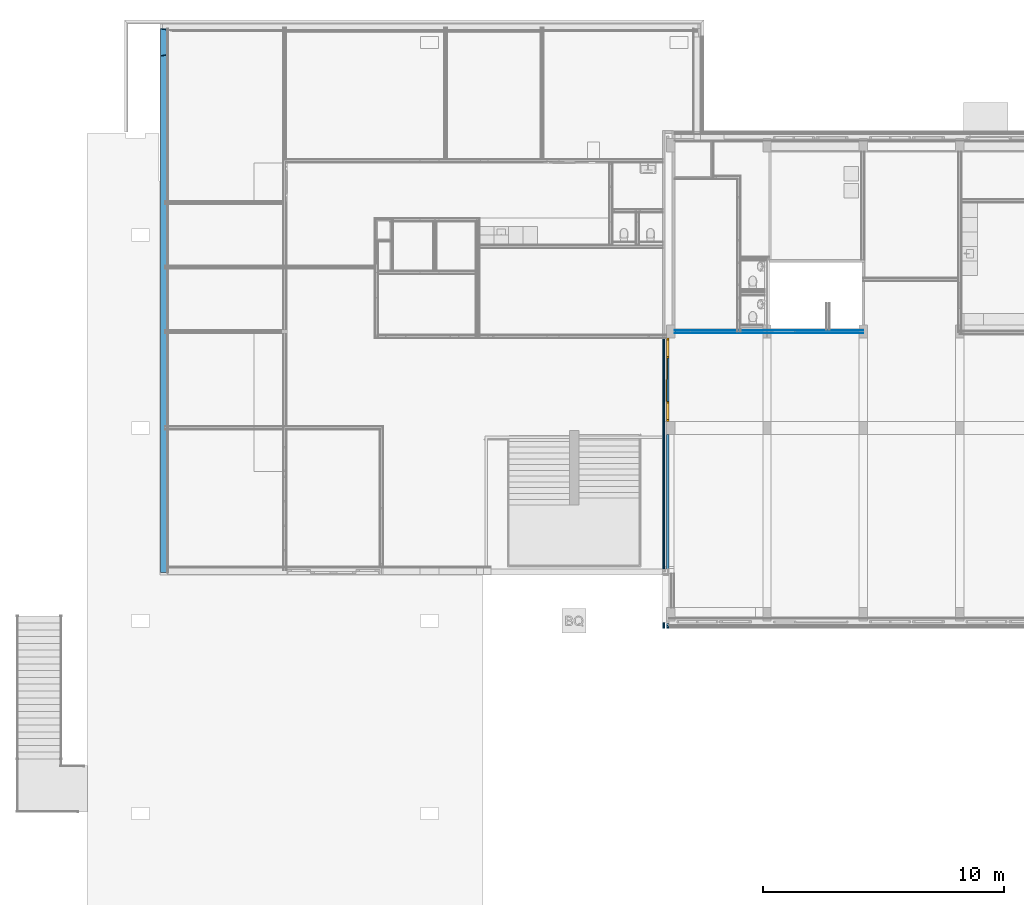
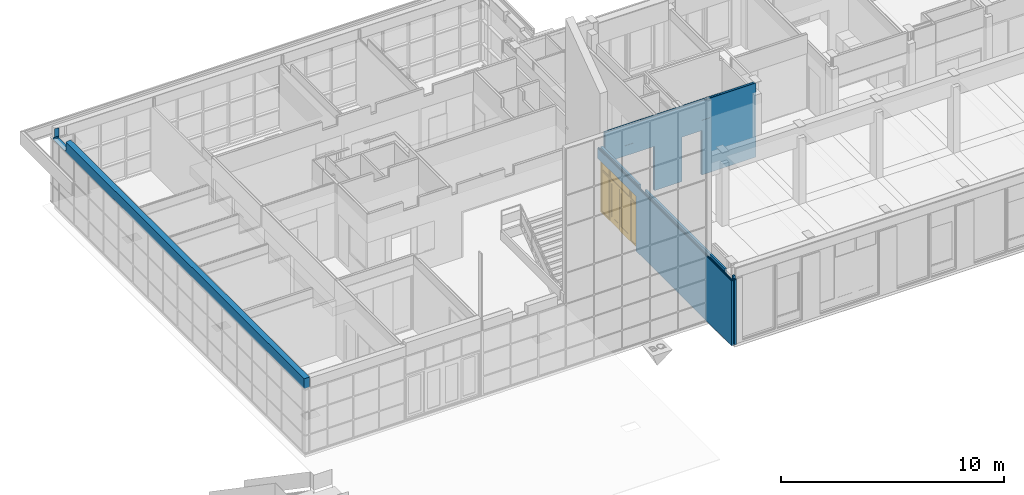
# One storey, part 35 of 109: 7 building element parts, 1 door, 3 openings, 3 elements without a shape of their own.
"""IFC2X3 building model written with IfcOpenShell, lengths in millimetres."""

from ifc_helpers import new_model, entity, si_unit, converted_unit, derived_unit, money_unit, direction, frame, origin_with_axes, place, context, subcontext, project, spatial, open_shell, faceted_brep, surface_model, material, type_object, element, fill, aggregate, save


model = new_model("IFC2X3")

# Units and contexts
model_context = context("Model", 3, precision=0.01, world=origin_with_axes(), true_north=direction((0.0, 1.0)))
body_context = subcontext(model_context, "Body", "Model", "MODEL_VIEW")
ifc_project = project(units=[si_unit("LENGTHUNIT", "METRE", prefix="MILLI"), si_unit("AREAUNIT", "SQUARE_METRE"), si_unit("VOLUMEUNIT", "CUBIC_METRE"), converted_unit("PLANEANGLEUNIT", "DEGREE", entity("IfcPlaneAngleMeasure", 0.0174532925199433), si_unit("PLANEANGLEUNIT", "RADIAN"), dimensions=[0, 0, 0, 0, 0, 0, 0]), money_unit("EUR"), converted_unit("TIMEUNIT", "Year", entity("IfcTimeMeasure", 31557600.0), si_unit("TIMEUNIT", "SECOND"), dimensions=[0, 0, 1, 0, 0, 0, 0]), si_unit("MASSUNIT", "GRAM", prefix="KILO"), si_unit("THERMODYNAMICTEMPERATUREUNIT", "DEGREE_CELSIUS"), si_unit("LUMINOUSINTENSITYUNIT", "LUMEN"), si_unit("ENERGYUNIT", "JOULE", prefix="MEGA"), derived_unit("THERMALCONDUCTANCEUNIT", [(si_unit("POWERUNIT", "WATT"), 1), (si_unit("LENGTHUNIT", "METRE"), -1), (si_unit("THERMODYNAMICTEMPERATUREUNIT", "KELVIN"), -1)]), derived_unit("SPECIFICHEATCAPACITYUNIT", [(si_unit("ENERGYUNIT", "JOULE"), 1), (si_unit("MASSUNIT", "GRAM", prefix="KILO"), -1), (si_unit("THERMODYNAMICTEMPERATUREUNIT", "KELVIN"), -1)]), derived_unit("MASSDENSITYUNIT", [(si_unit("MASSUNIT", "GRAM", prefix="KILO"), 1), (si_unit("VOLUMEUNIT", "CUBIC_METRE"), -1)])], contexts=[model_context])

# Site, building, storey
site_placement = place(None, origin_with_axes())
site = spatial("IfcSite", under=ifc_project, at=site_placement, Name="<site naam>", CompositionType="ELEMENT")
building_placement = place(site_placement, origin_with_axes())
building = spatial("IfcBuilding", under=site, at=building_placement, Name="<Naam gebouw>", CompositionType="ELEMENT")
storey_placement = place(building_placement, origin_with_axes())
storey = spatial("IfcBuildingStorey", under=building, at=storey_placement, Name="00 Begane grond", CompositionType="ELEMENT", Elevation=0.0)

# Door
door_style = type_object("IfcDoorStyle", Name="D2 bl zl2 27", ConstructionType="NOTDEFINED", OperationType="USERDEFINED", ParameterTakesPrecedence=False, Sizeable=False)
wall_1_placement = place(storey_placement, frame((11665.00000000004, 11725.00000000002, 0.0), z_axis=(0.0, 0.0, 1.0), x_axis=(0.0, -1.0, 0.0)))
opening_1_placement = place(wall_1_placement, frame((1725.0, 0.0, 0.0), z_axis=(0.0, 0.0, 1.0), x_axis=(1.0, 0.0, 0.0)))
door_placement = place(opening_1_placement, frame((1725.0, 0.0, 0.0), z_axis=(0.0, 0.0, 1.0), x_axis=(-1.0, 0.0, 0.0)))
door = element("IfcDoor", 1, at=door_placement, inside=storey, type_object=door_style, Name="21_BI-D-02_305", ObjectType="DOOR", OverallHeight=3000.0, OverallWidth=3450.0, context=body_context, shape_type="SurfaceModel", body=[
    faceted_brep([(0.0, -160.0000000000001, 0.0), (67.00000000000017, -160.0000000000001, 0.0), (67.00000000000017, -273.9999999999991, 0.0), (0.0, -273.9999999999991, 0.0), (0.0, -160.0000000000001, 2933.0), (67.00000000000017, -160.0000000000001, 2933.0), (67.00000000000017, -160.0000000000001, 2367.0), (67.00000000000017, -160.0000000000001, 2300.0), (67.00000000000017, -160.0000000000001, 66.99999999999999), (67.00000000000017, -273.9999999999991, 66.99999999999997), (67.00000000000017, -273.9999999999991, 2300.0), (67.00000000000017, -273.9999999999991, 2367.0), (67.00000000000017, -273.9999999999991, 2933.0), (0.0, -273.9999999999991, 2933.0)], [[[0, 1, 2, 3]], [[0, 4, 5, 6, 7, 8, 1]], [[1, 8, 9, 2]], [[3, 2, 9, 10, 11, 12, 13]], [[4, 0, 3, 13]], [[5, 4, 13, 12]], [[6, 5, 12, 11]], [[7, 6, 11, 10]], [[8, 7, 10, 9]]]),
    faceted_brep([(757.9999999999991, -160.0000000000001, 2933.0), (757.9999999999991, -160.0000000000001, 2367.0), (757.9999999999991, -273.9999999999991, 2367.0), (757.9999999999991, -274.0000000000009, 2933.0), (824.9999999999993, -160.0000000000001, 2933.0), (824.9999999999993, -160.0000000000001, 2367.0), (824.9999999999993, -160.0000000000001, 2300.0), (824.9999999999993, -160.0000000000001, 0.0), (757.9999999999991, -160.0000000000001, 0.0), (757.9999999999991, -160.0000000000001, 66.99999999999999), (757.9999999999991, -160.0000000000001, 2300.0), (757.9999999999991, -273.9999999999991, 2300.0), (757.9999999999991, -273.9999999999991, 66.99999999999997), (757.9999999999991, -273.9999999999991, 0.0), (824.9999999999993, -273.9999999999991, 0.0), (824.9999999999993, -273.9999999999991, 2300.0), (824.9999999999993, -273.9999999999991, 2367.0), (824.9999999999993, -274.0000000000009, 2933.0)], [[[0, 1, 2, 3]], [[0, 4, 5, 6, 7, 8, 9, 10, 1]], [[1, 10, 11, 2]], [[3, 2, 11, 12, 13, 14, 15, 16, 17]], [[4, 0, 3, 17]], [[5, 4, 17, 16]], [[6, 5, 16, 15]], [[7, 6, 15, 14]], [[8, 7, 14, 13]], [[9, 8, 13, 12]], [[10, 9, 12, 11]]]),
    faceted_brep([(67.00000000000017, -160.0000000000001, 66.99999999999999), (67.00000000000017, -160.0000000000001, 0.0), (67.00000000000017, -273.9999999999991, 0.0), (67.00000000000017, -273.9999999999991, 66.99999999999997), (757.9999999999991, -160.0000000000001, 66.99999999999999), (757.9999999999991, -160.0000000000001, 0.0), (757.9999999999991, -273.9999999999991, 0.0), (757.9999999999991, -273.9999999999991, 66.99999999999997)], [[[0, 1, 2, 3]], [[0, 4, 5, 1]], [[1, 5, 6, 2]], [[3, 2, 6, 7]], [[4, 0, 3, 7]], [[5, 4, 7, 6]]]),
    faceted_brep([(3449.999999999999, -160.0000000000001, 0.0), (3449.999999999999, -160.0000000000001, 2933.0), (3449.999999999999, -274.0000000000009, 2933.0), (3449.999999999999, -274.0000000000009, 0.0), (3382.999999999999, -160.0000000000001, 0.0), (3382.999999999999, -160.0000000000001, 66.99999999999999), (3382.999999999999, -160.0000000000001, 2300.0), (3382.999999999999, -160.0000000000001, 2367.0), (3382.999999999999, -160.0000000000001, 2933.0), (3382.999999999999, -274.0000000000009, 2933.0), (3382.999999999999, -274.0000000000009, 2367.0), (3382.999999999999, -274.0000000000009, 2300.0), (3382.999999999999, -274.0000000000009, 66.99999999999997), (3382.999999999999, -274.0000000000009, 0.0)], [[[0, 1, 2, 3]], [[0, 4, 5, 6, 7, 8, 1]], [[1, 8, 9, 2]], [[3, 2, 9, 10, 11, 12, 13]], [[4, 0, 3, 13]], [[5, 4, 13, 12]], [[6, 5, 12, 11]], [[7, 6, 11, 10]], [[8, 7, 10, 9]]]),
    faceted_brep([(2692.0, -160.0000000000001, 2933.0), (2625.0, -160.0000000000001, 2933.0), (2625.0, -274.0000000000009, 2933.0), (2692.0, -274.0000000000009, 2933.0), (2692.0, -160.0000000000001, 2367.0), (2692.0, -160.0000000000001, 2300.0), (2692.0, -160.0000000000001, 66.99999999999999), (2692.0, -160.0000000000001, 0.0), (2625.0, -160.0000000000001, 0.0), (2625.0, -160.0000000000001, 2300.0), (2625.0, -160.0000000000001, 2367.0), (2625.0, -274.0000000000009, 2367.0), (2625.0, -274.0000000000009, 2300.0), (2625.0, -274.0000000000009, 0.0), (2692.0, -274.0000000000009, 0.0), (2692.0, -274.0000000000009, 66.99999999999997), (2692.0, -274.0000000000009, 2300.0), (2692.0, -274.0000000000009, 2367.0)], [[[0, 1, 2, 3]], [[0, 4, 5, 6, 7, 8, 9, 10, 1]], [[1, 10, 11, 2]], [[3, 2, 11, 12, 13, 14, 15, 16, 17]], [[4, 0, 3, 17]], [[5, 4, 17, 16]], [[6, 5, 16, 15]], [[7, 6, 15, 14]], [[8, 7, 14, 13]], [[9, 8, 13, 12]], [[10, 9, 12, 11]]]),
    faceted_brep([(2692.0, -160.0000000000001, 66.99999999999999), (2692.0, -160.0000000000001, 0.0), (2692.0, -274.0000000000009, 0.0), (2692.0, -274.0000000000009, 66.99999999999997), (3382.999999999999, -160.0000000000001, 66.99999999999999), (3382.999999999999, -160.0000000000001, 0.0), (3382.999999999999, -274.0000000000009, 0.0), (3382.999999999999, -274.0000000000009, 66.99999999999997)], [[[0, 1, 2, 3]], [[0, 4, 5, 1]], [[1, 5, 6, 2]], [[3, 2, 6, 7]], [[4, 0, 3, 7]], [[5, 4, 7, 6]]]),
    faceted_brep([(0.0, -160.0000000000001, 3000.0), (0.0, -160.0000000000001, 2933.0), (0.0, -273.9999999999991, 2933.0), (0.0, -273.9999999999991, 3000.0), (3449.999999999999, -160.0000000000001, 3000.0), (3449.999999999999, -160.0000000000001, 2933.0), (3382.999999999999, -160.0000000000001, 2933.0), (2692.0, -160.0000000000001, 2933.0), (2625.0, -160.0000000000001, 2933.0), (824.9999999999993, -160.0000000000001, 2933.0), (757.9999999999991, -160.0000000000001, 2933.0), (67.00000000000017, -160.0000000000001, 2933.0), (67.00000000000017, -273.9999999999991, 2933.0), (757.9999999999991, -274.0000000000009, 2933.0), (824.9999999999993, -274.0000000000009, 2933.0), (2625.0, -274.0000000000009, 2933.0), (2692.0, -274.0000000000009, 2933.0), (3382.999999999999, -274.0000000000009, 2933.0), (3449.999999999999, -274.0000000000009, 2933.0), (3449.999999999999, -274.0000000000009, 3000.0)], [[[0, 1, 2, 3]], [[0, 4, 5, 6, 7, 8, 9, 10, 11, 1]], [[1, 11, 12, 2]], [[3, 2, 12, 13, 14, 15, 16, 17, 18, 19]], [[4, 0, 3, 19]], [[5, 4, 19, 18]], [[6, 5, 18, 17]], [[7, 6, 17, 16]], [[8, 7, 16, 15]], [[9, 8, 15, 14]], [[10, 9, 14, 13]], [[11, 10, 13, 12]]]),
    faceted_brep([(67.00000000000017, -160.0000000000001, 2300.0), (757.9999999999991, -160.0000000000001, 2300.0), (757.9999999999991, -273.9999999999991, 2300.0), (67.00000000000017, -273.9999999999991, 2300.0), (67.00000000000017, -160.0000000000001, 2367.0), (757.9999999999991, -160.0000000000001, 2367.0), (757.9999999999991, -273.9999999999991, 2367.0), (67.00000000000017, -273.9999999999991, 2367.0)], [[[0, 1, 2, 3]], [[0, 4, 5, 1]], [[1, 5, 6, 2]], [[3, 2, 6, 7]], [[4, 0, 3, 7]], [[5, 4, 7, 6]]]),
    faceted_brep([(3382.999999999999, -160.0000000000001, 2367.0), (2692.0, -160.0000000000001, 2367.0), (2692.0, -274.0000000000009, 2367.0), (3382.999999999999, -274.0000000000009, 2367.0), (3382.999999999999, -160.0000000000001, 2300.0), (2692.0, -160.0000000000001, 2300.0), (2692.0, -274.0000000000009, 2300.0), (3382.999999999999, -274.0000000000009, 2300.0)], [[[0, 1, 2, 3]], [[0, 4, 5, 1]], [[1, 5, 6, 2]], [[3, 2, 6, 7]], [[4, 0, 3, 7]], [[5, 4, 7, 6]]]),
    faceted_brep([(824.9999999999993, -160.0000000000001, 2367.0), (824.9999999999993, -160.0000000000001, 2300.0), (824.9999999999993, -273.9999999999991, 2300.0), (824.9999999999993, -273.9999999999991, 2367.0), (2625.0, -160.0000000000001, 2367.0), (2625.0, -160.0000000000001, 2300.0), (2625.0, -274.0000000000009, 2300.0), (2625.0, -274.0000000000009, 2367.0)], [[[0, 1, 2, 3]], [[0, 4, 5, 1]], [[1, 5, 6, 2]], [[3, 2, 6, 7]], [[4, 0, 3, 7]], [[5, 4, 7, 6]]]),
    faceted_brep([(2625.0, -169.9999999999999, 300.0), (2625.0, -210.0000000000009, 300.0), (2475.0, -210.0000000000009, 300.0), (2475.0, -169.9999999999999, 300.0), (2625.0, -169.9999999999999, 2150.0), (2625.0, -210.0000000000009, 2150.0), (2475.0, -210.0000000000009, 2150.0), (2475.0, -169.9999999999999, 2150.0)], [[[0, 1, 2, 3]], [[4, 5, 1, 0]], [[1, 5, 6, 2]], [[3, 2, 6, 7]], [[0, 3, 7, 4]], [[7, 6, 5, 4]]]),
    faceted_brep([(1725.0, -169.9999999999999, 300.0), (1725.0, -210.0000000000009, 300.0), (1725.0, -210.0000000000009, 2150.0), (1725.0, -169.9999999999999, 2150.0), (1875.0, -169.9999999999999, 300.0), (1875.0, -210.0000000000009, 300.0), (1875.0, -210.0000000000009, 2150.0), (1875.0, -169.9999999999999, 2150.0)], [[[0, 1, 2, 3]], [[4, 5, 1, 0]], [[1, 5, 6, 2]], [[3, 2, 6, 7]], [[0, 3, 7, 4]], [[7, 6, 5, 4]]]),
    faceted_brep([(2625.0, -169.9999999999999, 0.0), (2625.0, -210.0000000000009, 0.0), (1725.0, -210.0000000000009, 0.0), (1725.0, -169.9999999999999, 0.0), (2625.0, -169.9999999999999, 300.0), (2625.0, -210.0000000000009, 300.0), (2475.0, -210.0000000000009, 300.0), (1875.0, -210.0000000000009, 300.0), (1725.0, -210.0000000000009, 300.0), (1725.0, -169.9999999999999, 300.0), (1875.0, -169.9999999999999, 300.0), (2475.0, -169.9999999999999, 300.0)], [[[0, 1, 2, 3]], [[4, 5, 1, 0]], [[1, 5, 6, 7, 8, 2]], [[3, 2, 8, 9]], [[0, 3, 9, 10, 11, 4]], [[11, 6, 5, 4]], [[10, 7, 6, 11]], [[9, 8, 7, 10]]]),
    faceted_brep([(2625.0, -169.9999999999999, 2300.0), (2625.0, -210.0000000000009, 2300.0), (2625.0, -210.0000000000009, 2150.0), (2625.0, -169.9999999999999, 2150.0), (1725.0, -169.9999999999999, 2300.0), (1725.0, -210.0000000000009, 2300.0), (1725.0, -210.0000000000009, 2150.0), (1875.0, -210.0000000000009, 2150.0), (2475.0, -210.0000000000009, 2150.0), (2475.0, -169.9999999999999, 2150.0), (1875.0, -169.9999999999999, 2150.0), (1725.0, -169.9999999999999, 2150.0)], [[[0, 1, 2, 3]], [[4, 5, 1, 0]], [[1, 5, 6, 7, 8, 2]], [[3, 2, 8, 9]], [[0, 3, 9, 10, 11, 4]], [[11, 6, 5, 4]], [[10, 7, 6, 11]], [[9, 8, 7, 10]]]),
    surface_model("IfcShellBasedSurfaceModel", [(2475.0, -184.0000000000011, 300.0), (1875.0, -184.0000000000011, 300.0), (1875.0, -184.0000000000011, 2150.0), (2475.0, -184.0000000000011, 2150.0)], [open_shell([[[0, 1, 2, 3]]])]),
    surface_model("IfcShellBasedSurfaceModel", [(2475.0, -195.9999999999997, 300.0), (2475.0, -195.9999999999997, 2150.0), (1875.0, -195.9999999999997, 2150.0), (1875.0, -195.9999999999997, 300.0)], [open_shell([[[0, 1, 2, 3]]])]),
    faceted_brep([(824.9999999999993, -189.9999999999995, 300.0), (824.9999999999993, -150.0000000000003, 300.0), (974.9999999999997, -150.0000000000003, 300.0), (974.9999999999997, -189.9999999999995, 300.0), (824.9999999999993, -189.9999999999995, 2150.0), (824.9999999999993, -150.0000000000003, 2150.0), (974.9999999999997, -150.0000000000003, 2150.0), (974.9999999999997, -189.9999999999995, 2150.0)], [[[0, 1, 2, 3]], [[4, 5, 1, 0]], [[1, 5, 6, 2]], [[3, 2, 6, 7]], [[0, 3, 7, 4]], [[7, 6, 5, 4]]]),
    faceted_brep([(1725.0, -189.9999999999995, 300.0), (1725.0, -150.0000000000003, 300.0), (1725.0, -150.0000000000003, 2150.0), (1725.0, -189.9999999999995, 2150.0), (1574.999999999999, -189.9999999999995, 300.0), (1574.999999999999, -150.0000000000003, 300.0), (1574.999999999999, -150.0000000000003, 2150.0), (1574.999999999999, -189.9999999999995, 2150.0)], [[[0, 1, 2, 3]], [[4, 5, 1, 0]], [[1, 5, 6, 2]], [[3, 2, 6, 7]], [[0, 3, 7, 4]], [[7, 6, 5, 4]]]),
    faceted_brep([(824.9999999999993, -189.9999999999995, 0.0), (824.9999999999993, -150.0000000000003, 0.0), (1725.0, -150.0000000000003, 0.0), (1725.0, -189.9999999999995, 0.0), (824.9999999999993, -189.9999999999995, 300.0), (824.9999999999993, -150.0000000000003, 300.0), (974.9999999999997, -150.0000000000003, 300.0), (1574.999999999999, -150.0000000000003, 300.0), (1725.0, -150.0000000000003, 300.0), (1725.0, -189.9999999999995, 300.0), (1574.999999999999, -189.9999999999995, 300.0), (974.9999999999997, -189.9999999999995, 300.0)], [[[0, 1, 2, 3]], [[4, 5, 1, 0]], [[1, 5, 6, 7, 8, 2]], [[3, 2, 8, 9]], [[0, 3, 9, 10, 11, 4]], [[11, 6, 5, 4]], [[10, 7, 6, 11]], [[9, 8, 7, 10]]]),
    faceted_brep([(824.9999999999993, -189.9999999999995, 2300.0), (824.9999999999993, -150.0000000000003, 2300.0), (824.9999999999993, -150.0000000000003, 2150.0), (824.9999999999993, -189.9999999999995, 2150.0), (1725.0, -189.9999999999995, 2300.0), (1725.0, -150.0000000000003, 2300.0), (1725.0, -150.0000000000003, 2150.0), (1574.999999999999, -150.0000000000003, 2150.0), (974.9999999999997, -150.0000000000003, 2150.0), (974.9999999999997, -189.9999999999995, 2150.0), (1574.999999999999, -189.9999999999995, 2150.0), (1725.0, -189.9999999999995, 2150.0)], [[[0, 1, 2, 3]], [[4, 5, 1, 0]], [[1, 5, 6, 7, 8, 2]], [[3, 2, 8, 9]], [[0, 3, 9, 10, 11, 4]], [[11, 6, 5, 4]], [[10, 7, 6, 11]], [[9, 8, 7, 10]]]),
    surface_model("IfcShellBasedSurfaceModel", [(974.9999999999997, -176.0000000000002, 300.0), (1574.999999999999, -176.0000000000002, 300.0), (1574.999999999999, -176.0000000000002, 2150.0), (974.9999999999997, -176.0000000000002, 2150.0)], [open_shell([[[0, 1, 2, 3]]])]),
    surface_model("IfcShellBasedSurfaceModel", [(974.9999999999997, -163.9999999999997, 300.0), (974.9999999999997, -163.9999999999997, 2150.0), (1574.999999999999, -163.9999999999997, 2150.0), (1574.999999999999, -163.9999999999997, 300.0)], [open_shell([[[0, 1, 2, 3]]])]),
    surface_model("IfcShellBasedSurfaceModel", [(67.00000000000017, -220.0000000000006, 2367.0), (757.9999999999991, -220.0000000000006, 2367.0), (757.9999999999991, -220.0000000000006, 2933.0), (67.00000000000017, -220.0000000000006, 2933.0)], [open_shell([[[0, 1, 2, 3]]])]),
    surface_model("IfcShellBasedSurfaceModel", [(67.00000000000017, -208.0000000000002, 2367.0), (67.00000000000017, -208.0000000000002, 2933.0), (757.9999999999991, -208.0000000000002, 2933.0), (757.9999999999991, -208.0000000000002, 2367.0)], [open_shell([[[0, 1, 2, 3]]])]),
    surface_model("IfcShellBasedSurfaceModel", [(824.9999999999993, -220.0000000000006, 2367.0), (2625.0, -220.0000000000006, 2367.0), (2625.0, -220.0000000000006, 2933.0), (824.9999999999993, -220.0000000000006, 2933.0)], [open_shell([[[0, 1, 2, 3]]])]),
    surface_model("IfcShellBasedSurfaceModel", [(824.9999999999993, -208.0000000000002, 2367.0), (824.9999999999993, -208.0000000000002, 2933.0), (2625.0, -208.0000000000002, 2933.0), (2625.0, -208.0000000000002, 2367.0)], [open_shell([[[0, 1, 2, 3]]])]),
    surface_model("IfcShellBasedSurfaceModel", [(2692.0, -220.0000000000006, 2367.0), (3382.999999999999, -220.0000000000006, 2367.0), (3382.999999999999, -220.0000000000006, 2933.0), (2692.0, -220.0000000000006, 2933.0)], [open_shell([[[0, 1, 2, 3]]])]),
    surface_model("IfcShellBasedSurfaceModel", [(2692.0, -208.0000000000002, 2367.0), (2692.0, -208.0000000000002, 2933.0), (3382.999999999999, -208.0000000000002, 2933.0), (3382.999999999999, -208.0000000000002, 2367.0)], [open_shell([[[0, 1, 2, 3]]])]),
    surface_model("IfcShellBasedSurfaceModel", [(67.00000000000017, -219.9999999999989, 66.99999999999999), (757.9999999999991, -220.0000000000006, 66.99999999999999), (757.9999999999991, -220.0000000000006, 2300.0), (67.00000000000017, -220.0000000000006, 2300.0)], [open_shell([[[0, 1, 2, 3]]])]),
    surface_model("IfcShellBasedSurfaceModel", [(67.00000000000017, -208.0000000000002, 66.99999999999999), (67.00000000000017, -208.0000000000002, 2300.0), (757.9999999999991, -208.0000000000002, 2300.0), (757.9999999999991, -208.0000000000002, 66.99999999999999)], [open_shell([[[0, 1, 2, 3]]])]),
    surface_model("IfcShellBasedSurfaceModel", [(2692.0, -220.0000000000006, 66.99999999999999), (3382.999999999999, -220.0000000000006, 66.99999999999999), (3382.999999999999, -220.0000000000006, 2300.0), (2692.0, -220.0000000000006, 2300.0)], [open_shell([[[0, 1, 2, 3]]])]),
    surface_model("IfcShellBasedSurfaceModel", [(2692.0, -208.0000000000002, 66.99999999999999), (2692.0, -208.0000000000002, 2300.0), (3382.999999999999, -208.0000000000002, 2300.0), (3382.999999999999, -208.0000000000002, 66.99999999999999)], [open_shell([[[0, 1, 2, 3]]])]),
])

# Wall, opening
wall_type_1 = type_object("IfcWallType", Name="metselwerk-lucht-metselwerk 270 270", PredefinedType="NOTDEFINED")
wall_1 = element("IfcWall", 2, at=wall_1_placement, inside=storey, type_object=wall_type_1, Name="21_Binnenwand_metselwerk-lucht-metselwerk")
opening_1 = element("IfcOpeningElement", 3, at=opening_1_placement, cuts=wall_1, Name="21_BI-D-02_305", context=body_context, shape_type="Brep", body=[
    faceted_brep([(1725.0, 160.0000000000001, 3000.0), (-1725.0, 160.0000000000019, 3000.0), (-1725.0, -0.9999999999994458, 3000.0), (1725.0, -0.9999999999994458, 3000.0), (1725.0, 271.0000000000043, 3000.0), (-1725.0, 271.0000000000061, 3000.0), (-1725.0, 160.0000000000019, 0.0), (-1725.0, -0.9999999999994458, 0.0), (1725.0, -0.9999999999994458, 0.0), (1725.0, 160.0000000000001, 0.0), (1725.0, 271.0000000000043, 0.0), (-1725.0, 271.0000000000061, 0.0)], [[[0, 1, 2, 3]], [[1, 0, 4, 5]], [[1, 6, 7, 2]], [[2, 7, 8, 3]], [[9, 0, 3, 8]], [[0, 9, 10, 4]], [[4, 10, 11, 5]], [[6, 1, 5, 11]], [[6, 9, 8, 7]], [[9, 6, 11, 10]]]),
])

fill(opening_1, door)

# Building element part
ifc_material_1 = material(Name="metselwerk AFW")
building_element_part_1_placement = place(wall_1_placement, origin_with_axes())
building_element_part_1 = element("IfcBuildingElementPart", 4, at=building_element_part_1_placement, material=ifc_material_1, Name="metselwerk AFW", context=body_context, shape_type="Brep", body=[
    faceted_brep([(0.0, 109.9999999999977, 3549.999998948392), (0.0, 59.99999570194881, 3549.999998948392), (11990.01689825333, 59.99999570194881, 3549.999998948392), (11990.01689825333, 109.9999999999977, 3549.999998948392), (0.0, 30.00000472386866, 3579.999921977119), (0.0, 59.99999570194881, 3579.999921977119), (0.0, 109.9999999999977, 0.0), (0.0, 0.0, 0.0), (0.0, 2.420895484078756e-06, 3549.999998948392), (0.0, 30.00000472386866, 3549.999998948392), (11990.01689825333, 59.99999570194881, 3579.999921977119), (11990.01689825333, 109.9999999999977, 3579.999921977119), (12020.01688923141, 109.9999999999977, 3579.999921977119), (12020.01688923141, 109.9999999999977, 3549.999998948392), (12049.99999757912, 109.9999999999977, 3549.999998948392), (12049.99999757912, 109.9999999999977, 0.0), (12020.01688923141, 30.00000472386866, 3579.999921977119), (12049.99999757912, 0.0, 0.0), (12049.99999757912, 2.420895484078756e-06, 3549.999998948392), (12020.01688923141, 30.00000472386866, 3549.999998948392)], [[[0, 1, 2, 3]], [[4, 5, 1, 0, 6, 7, 8, 9]], [[1, 5, 10, 2]], [[2, 10, 11, 3]], [[11, 12, 13, 14, 15, 6, 0, 3]], [[5, 4, 16, 12, 11, 10]], [[17, 7, 6, 15]], [[7, 17, 18, 8]], [[8, 18, 14, 13, 19, 9]], [[4, 9, 19, 16]], [[16, 19, 13, 12]], [[17, 15, 14, 18]]]),
])

ifc_material_2 = material(Name="metselwerk C")
building_element_part_2_placement = place(wall_1_placement, origin_with_axes())
building_element_part_2 = element("IfcBuildingElementPart", 5, at=building_element_part_2_placement, material=ifc_material_2, Name="metselwerk C", context=body_context, shape_type="Brep", body=[
    faceted_brep([(11930.01689364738, 159.9999997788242, 3700.0), (11930.01689364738, 269.9999822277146, 3700.0), (11832.67462675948, 269.9999533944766, 3700.0), (11832.67462675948, 159.9999999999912, 3700.0), (11930.01689364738, 270.0000000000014, 3649.999908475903), (11930.01689364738, 159.9999999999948, 3649.999908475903), (11930.01689364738, 270.0000000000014, 3549.999998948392), (11990.01689825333, 270.0000000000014, 3549.999998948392), (11990.01689825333, 270.0000000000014, 3579.999921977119), (12020.01688923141, 270.0000000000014, 3579.999921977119), (12020.01688923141, 270.0000000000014, 3549.999998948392), (12049.99999757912, 270.0000000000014, 3549.999998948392), (12049.99999757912, 269.9999999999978, 0.0), (11832.67462675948, 269.9999533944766, 0.0), (11832.67462675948, 159.9999999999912, 0.0), (12049.99999757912, 159.9999999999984, 0.0), (12049.99999757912, 159.9999999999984, 3549.999998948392), (12020.01688923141, 160.0000000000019, 3549.999998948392), (12020.01688923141, 160.0000000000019, 3579.999921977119), (11990.01689825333, 160.0000000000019, 3579.999921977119), (11990.01689825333, 160.0000000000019, 3549.999998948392), (11930.01689364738, 159.9999999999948, 3549.999998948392)], [[[0, 1, 2, 3]], [[4, 1, 0, 5]], [[1, 4, 6, 7, 8, 9, 10, 11, 12, 13, 2]], [[13, 14, 3, 2]], [[5, 0, 3, 14, 15, 16, 17, 18, 19, 20, 21]], [[4, 5, 21, 6]], [[6, 21, 20, 7]], [[7, 20, 19, 8]], [[8, 19, 18, 9]], [[9, 18, 17, 10]], [[10, 17, 16, 11]], [[16, 15, 12, 11]], [[12, 15, 14, 13]]]),
    faceted_brep([(4000.000046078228, 159.9999520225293, 3620.0), (11175.00000000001, 159.9999999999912, 3620.0), (11175.00000000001, 269.9999567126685, 3620.0), (4000.000046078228, 270.0000000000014, 3620.0), (4000.0, 160.0000000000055, 0.0), (11175.00000000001, 159.9999999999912, 0.0), (11175.00000000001, 269.9999555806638, 0.0), (4000.0, 269.9999841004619, 0.0)], [[[0, 1, 2, 3]], [[4, 5, 1, 0]], [[5, 6, 2, 1]], [[3, 2, 6, 7]], [[3, 7, 4, 0]], [[7, 6, 5, 4]]]),
    faceted_brep([(0.0, 159.9999520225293, 3570.0), (3449.999999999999, 160.0000000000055, 3570.0), (3449.999999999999, 270.0000000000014, 3570.0), (0.0, 270.0000000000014, 3570.0), (0.0, 160.0000000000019, 0.0), (3449.999999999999, 160.0000000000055, 0.0), (3449.999999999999, 269.9999862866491, 0.0), (0.0, 270.0000000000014, 0.0)], [[[0, 1, 2, 3]], [[4, 5, 1, 0]], [[5, 6, 2, 1]], [[3, 2, 6, 7]], [[7, 4, 0, 3]], [[7, 6, 5, 4]]]),
])

aggregate(wall_1, [building_element_part_1, building_element_part_2])

# Wall, openings, building element parts
wall_type_2 = type_object("IfcWallType", Name="MS-01 GF 150 ECO DGS/2.100.2.A 150", PredefinedType="NOTDEFINED")
wall_2_placement = place(storey_placement, frame((12175.00000000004, 12000.00000000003, 0.0), z_axis=(0.0, 0.0, 1.0), x_axis=(1.0, 0.0, 0.0)))
wall_2 = element("IfcWall", 6, at=wall_2_placement, inside=storey, type_object=wall_type_2, Name="22_Binnenwand_MS-01")
opening_2_placement = place(wall_2_placement, frame((1589.95, 0.0, 0.0), z_axis=(0.0, 0.0, 1.0), x_axis=(1.0, 0.0, 0.0)))
element("IfcOpeningElement", 7, at=opening_2_placement, cuts=wall_2, Name="22_BI-H-02_305", context=body_context, shape_type="Brep", body=[
    faceted_brep([(989.9500000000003, 75.99999999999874, 2434.0), (989.9500000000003, 75.99999999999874, 0.0), (-989.9500000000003, 75.99999999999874, 0.0), (-989.9500000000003, 75.99999999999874, 2434.0), (989.9500000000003, -75.99999999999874, 2434.0), (989.9500000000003, -75.99999999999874, 0.0), (-989.9500000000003, -75.99999999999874, 0.0), (-989.9500000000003, -75.99999999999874, 2434.0)], [[[0, 1, 2, 3]], [[4, 5, 1, 0]], [[5, 6, 2, 1]], [[6, 7, 3, 2]], [[7, 4, 0, 3]], [[6, 5, 4, 7]]]),
])
opening_3_placement = place(wall_2_placement, frame((4516.948508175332, 0.0, 0.0), z_axis=(0.0, 0.0, 1.0), x_axis=(1.0, 0.0, 0.0)))
element("IfcOpeningElement", 8, at=opening_3_placement, cuts=wall_2, Name="22_BI-A-01 sp_305", context=body_context, shape_type="Brep", body=[
    faceted_brep([(516.9999999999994, 75.99999999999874, 2434.0), (516.9999999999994, 75.99999999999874, 0.0), (-516.9999999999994, 75.99999999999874, 0.0), (-516.9999999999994, 75.99999999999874, 2434.0), (516.9999999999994, -75.99999999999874, 2434.0), (516.9999999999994, -75.99999999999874, 0.0), (-516.9999999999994, -75.99999999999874, 0.0), (-516.9999999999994, -75.99999999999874, 2434.0)], [[[0, 1, 2, 3]], [[4, 5, 1, 0]], [[5, 6, 2, 1]], [[6, 7, 3, 2]], [[7, 4, 0, 3]], [[6, 5, 4, 7]]]),
])
ifc_material_3 = material(Name="gipsplaat")
building_element_part_3_placement = place(wall_2_placement, origin_with_axes())
building_element_part_3 = element("IfcBuildingElementPart", 9, at=building_element_part_3_placement, material=ifc_material_3, Name="gipsplaat", context=body_context, shape_type="Brep", body=[
    faceted_brep([(2579.955006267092, 62.5, 3.000000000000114), (0.0, 62.5, 3.000000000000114), (0.0, 62.5, 4070.0), (7824.999999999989, 62.5, 4070.0), (7824.999999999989, 62.5, 0.0), (2579.955006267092, 62.5, 0.0), (2579.955006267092, 50.00000000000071, 3.000000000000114), (0.0, 50.00000000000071, 3.000000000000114), (0.0, 50.00000000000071, 4070.0), (7824.999999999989, 50.00000000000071, 4070.0), (7824.999999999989, 50.00000000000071, 0.0), (2579.955006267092, 50.00000000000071, 0.0)], [[[0, 1, 2, 3, 4, 5]], [[1, 0, 6, 7]], [[1, 7, 8, 2]], [[8, 9, 3, 2]], [[3, 9, 10, 4]], [[11, 5, 4, 10]], [[0, 5, 11, 6]], [[6, 11, 10, 9, 8, 7]]]),
])
ifc_material_4 = material(Name="isolatie_steenwol LSW")
building_element_part_4_placement = place(wall_2_placement, origin_with_axes())
building_element_part_4 = element("IfcBuildingElementPart", 10, at=building_element_part_4_placement, material=ifc_material_4, Name="isolatie_steenwol LSW", context=body_context, shape_type="Brep", body=[
    faceted_brep([(2579.955006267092, 50.00000000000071, 3.000000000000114), (0.0, 50.00000000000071, 3.000000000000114), (0.0, 50.00000000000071, 4070.0), (7824.999999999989, 50.00000000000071, 4070.0), (7824.999999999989, 50.00000000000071, 0.0), (2579.955006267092, 50.00000000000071, 0.0), (2579.955006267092, -49.99999999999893, 3.000000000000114), (0.0, -50.00000000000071, 3.000000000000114), (0.0, -49.99999999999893, 4070.0), (7824.999999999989, -49.99999999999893, 4070.0), (7824.999999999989, -49.99999999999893, 0.0), (2579.955006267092, -50.00000000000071, 0.0)], [[[0, 1, 2, 3, 4, 5]], [[1, 0, 6, 7]], [[1, 7, 8, 2]], [[8, 9, 3, 2]], [[3, 9, 10, 4]], [[11, 5, 4, 10]], [[0, 5, 11, 6]], [[6, 11, 10, 9, 8, 7]]]),
])
building_element_part_5_placement = place(wall_2_placement, origin_with_axes())
building_element_part_5 = element("IfcBuildingElementPart", 11, at=building_element_part_5_placement, material=ifc_material_3, Name="gipsplaat", context=body_context, shape_type="Brep", body=[
    faceted_brep([(2579.955006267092, -49.99999999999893, 3.000000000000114), (0.0, -50.00000000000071, 3.000000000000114), (0.0, -49.99999999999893, 4070.0), (7824.999999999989, -49.99999999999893, 4070.0), (7824.999999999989, -49.99999999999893, 0.0), (2579.955006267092, -50.00000000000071, 0.0), (2579.955006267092, -62.5, 3.000000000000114), (0.0, -62.5, 3.000000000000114), (0.0, -62.5, 4070.0), (7824.999999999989, -62.5, 4070.0), (7824.999999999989, -62.5, 0.0), (2579.955006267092, -62.5, 0.0)], [[[0, 1, 2, 3, 4, 5]], [[1, 0, 6, 7]], [[1, 7, 8, 2]], [[8, 9, 3, 2]], [[3, 9, 10, 4]], [[11, 5, 4, 10]], [[0, 5, 11, 6]], [[6, 11, 10, 9, 8, 7]]]),
])
building_element_part_6_placement = place(wall_2_placement, origin_with_axes())
building_element_part_6 = element("IfcBuildingElementPart", 12, at=building_element_part_6_placement, material=ifc_material_3, Name="gipsplaat", context=body_context, shape_type="Brep", body=[
    faceted_brep([(2579.955006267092, -62.5, 3.000000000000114), (0.0, -62.5, 3.000000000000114), (0.0, -62.5, 4070.0), (7824.999999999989, -62.5, 4070.0), (7824.999999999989, -62.5, 0.0), (2579.955006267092, -62.5, 0.0), (2579.955006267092, -75.00018183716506, 3.000000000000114), (0.0, -74.99999999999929, 3.000000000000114), (0.0, -74.99999999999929, 3000.0), (0.0, -73.64234921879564, 3000.0), (0.0, -73.64234921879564, 3040.0), (0.0, -74.99999999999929, 3040.0), (0.0, -74.99999999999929, 4070.0), (7824.999999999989, -74.99999999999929, 4070.0), (7824.999999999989, -73.64234921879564, 3000.0), (7824.999999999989, -74.99999999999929, 3000.0), (7824.999999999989, -74.99999999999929, 0.0), (7824.999999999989, -74.99999999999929, 3040.0), (7824.999999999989, -73.64234921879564, 3040.0), (2579.955006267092, -75.00018183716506, 0.0)], [[[0, 1, 2, 3, 4, 5]], [[1, 0, 6, 7]], [[1, 7, 8, 9, 10, 11, 12, 2]], [[12, 13, 3, 2]], [[14, 15, 16, 4, 3, 13, 17, 18]], [[19, 5, 4, 16]], [[0, 5, 19, 6]], [[6, 19, 16, 15, 8, 7]], [[15, 14, 9, 8]], [[14, 18, 10, 9]], [[18, 17, 11, 10]], [[11, 17, 13, 12]]]),
])
aggregate(wall_2, [building_element_part_3, building_element_part_4, building_element_part_5, building_element_part_6])

# Wall, building element part
wall_type_3 = type_object("IfcWallType", Name="HSB_285 zonder gevelbeplating 313", PredefinedType="NOTDEFINED")
wall_3_placement = place(storey_placement, frame((-9160.499999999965, 1997.50000000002, 3522.500151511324), z_axis=(0.0, 0.0, 1.0), x_axis=(0.0, 1.0, 0.0)))
wall_3 = element("IfcWall", 13, at=wall_3_placement, inside=storey, type_object=wall_type_3, Name="21_Binnenwand_HSB_285")
ifc_material_5 = material(Name="isolatie_houtvezel")
building_element_part_7_placement = place(wall_3_placement, origin_with_axes())
building_element_part_7 = element("IfcBuildingElementPart", 14, at=building_element_part_7_placement, material=ifc_material_5, Name="isolatie_houtvezel", context=body_context, shape_type="Brep", body=[
    faceted_brep([(21453.05865178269, 0.0, 97.49984848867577), (21497.58990178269, -284.9999999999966, 97.49984848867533), (21497.58990178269, -284.9999999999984, 17.4998484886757), (21453.05865178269, 0.0, 17.4998484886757), (21465.703125, -284.9999999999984, 97.49984848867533), (21421.171875, 0.0, 97.49984848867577), (22539.296875, -284.9999999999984, 97.49984848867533), (22507.41009821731, -285.0000000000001, 97.49984848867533), (22507.4100982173, -284.9999999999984, 17.4998484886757), (21465.70312499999, -284.9999999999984, 547.4998802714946), (0.0, -285.0000000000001, 547.4998802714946), (0.0, -285.0000000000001, 0.0), (22570.99999999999, -284.9999999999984, 0.0), (22570.99999999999, -284.9999999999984, 547.4998802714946), (22539.29687499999, -284.9999999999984, 547.4998802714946), (22551.9413482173, 0.0, 17.4998484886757), (22551.94134821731, 0.0, 97.49984848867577), (22570.99999999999, 0.0, 97.49984848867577), (22570.99999999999, 0.0, 0.0), (0.0, 0.0, 0.0), (0.0, 0.0, 547.4998802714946), (21421.171875, 0.0, 547.4998802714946), (22570.99999999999, -82.10000000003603, 97.49984848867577), (22570.99999999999, -82.10000000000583, 547.4998802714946)], [[[0, 1, 2, 3]], [[4, 1, 0, 5]], [[6, 7, 8, 2, 1, 4, 9, 10, 11, 12, 13, 14]], [[2, 8, 15, 3]], [[16, 17, 18, 19, 20, 21, 5, 0, 3, 15]], [[21, 9, 4, 5]], [[7, 6, 22, 17, 16]], [[7, 16, 15, 8]], [[9, 21, 20, 10]], [[11, 10, 20, 19]], [[19, 18, 12, 11]], [[22, 23, 13, 12, 18, 17]], [[23, 14, 13]], [[6, 14, 23, 22]]]),
])
aggregate(wall_3, [building_element_part_7])

save(model, "model.ifc")
